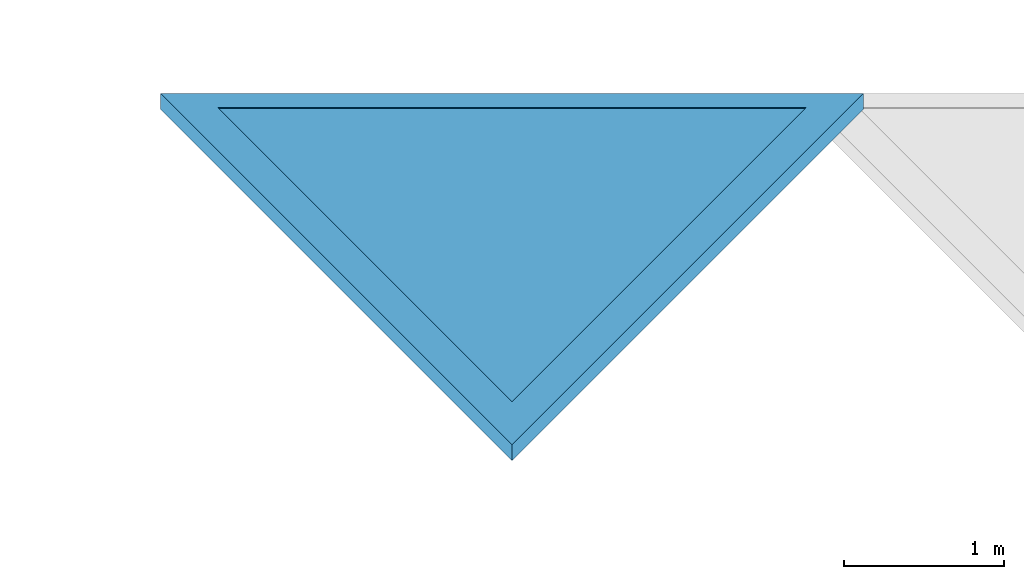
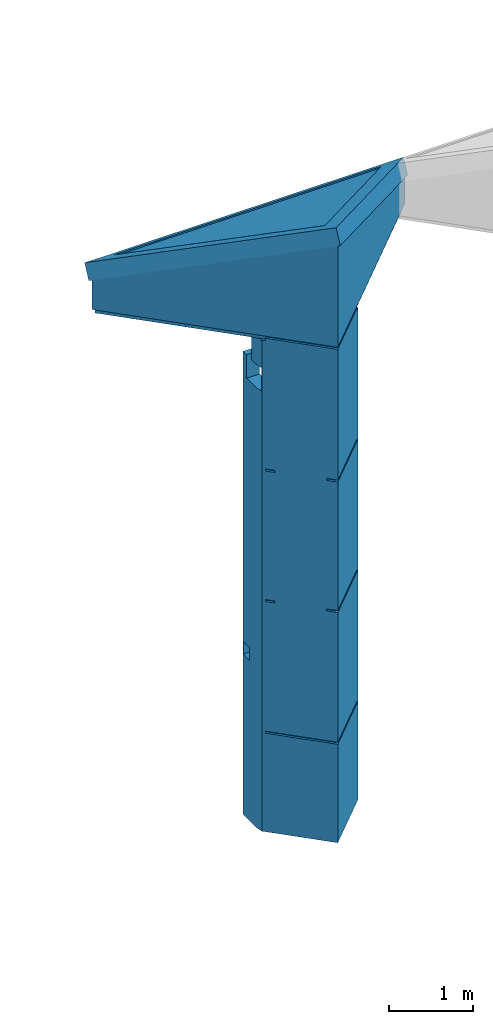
# One storey, part 8 of 13: 1 wall.
"""IFC4 building model written with IfcOpenShell, lengths in metres."""

from ifc_helpers import new_model, entity, si_unit, converted_unit, derived_unit, direction, frame, origin, place, context, subcontext, project, spatial, polygons, material, type_object, element, save


model = new_model("IFC4")

# Units and contexts
model_context = context("Model", 3, precision=1e-05, world=origin(), true_north=direction((6.12303176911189e-17, 1.0)))
body_context = subcontext(model_context, "Body", "Model", "MODEL_VIEW")
ifc_project = project(units=[si_unit("LENGTHUNIT", "METRE"), si_unit("AREAUNIT", "SQUARE_METRE"), si_unit("VOLUMEUNIT", "CUBIC_METRE"), converted_unit("PLANEANGLEUNIT", "DEGREE", entity("IfcRatioMeasure", 0.0174532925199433), si_unit("PLANEANGLEUNIT", "RADIAN"), dimensions=[0, 0, 0, 0, 0, 0, 0]), si_unit("MASSUNIT", "GRAM", prefix="KILO"), derived_unit("MASSDENSITYUNIT", [(si_unit("MASSUNIT", "GRAM", prefix="KILO"), 1), (si_unit("LENGTHUNIT", "METRE"), -3)]), derived_unit("MOMENTOFINERTIAUNIT", [(si_unit("LENGTHUNIT", "METRE"), 4)]), si_unit("TIMEUNIT", "SECOND"), si_unit("FREQUENCYUNIT", "HERTZ"), si_unit("THERMODYNAMICTEMPERATUREUNIT", "DEGREE_CELSIUS"), derived_unit("THERMALTRANSMITTANCEUNIT", [(si_unit("MASSUNIT", "GRAM", prefix="KILO"), 1), (si_unit("THERMODYNAMICTEMPERATUREUNIT", "KELVIN"), -1), (si_unit("TIMEUNIT", "SECOND"), -3)]), derived_unit("VOLUMETRICFLOWRATEUNIT", [(si_unit("LENGTHUNIT", "METRE"), 3), (si_unit("TIMEUNIT", "SECOND"), -1)]), si_unit("ELECTRICCURRENTUNIT", "AMPERE"), si_unit("ELECTRICVOLTAGEUNIT", "VOLT"), si_unit("POWERUNIT", "WATT"), si_unit("FORCEUNIT", "NEWTON", prefix="KILO"), si_unit("ILLUMINANCEUNIT", "LUX"), si_unit("LUMINOUSFLUXUNIT", "LUMEN"), si_unit("LUMINOUSINTENSITYUNIT", "CANDELA"), derived_unit("USERDEFINED", [(si_unit("MASSUNIT", "GRAM", prefix="KILO"), -1), (si_unit("LENGTHUNIT", "METRE"), -2), (si_unit("TIMEUNIT", "SECOND"), 3), (si_unit("LUMINOUSFLUXUNIT", "LUMEN"), 1)]), derived_unit("LINEARVELOCITYUNIT", [(si_unit("LENGTHUNIT", "METRE"), 1), (si_unit("TIMEUNIT", "SECOND"), -1)]), si_unit("PRESSUREUNIT", "PASCAL"), derived_unit("USERDEFINED", [(si_unit("LENGTHUNIT", "METRE"), -2), (si_unit("MASSUNIT", "GRAM", prefix="KILO"), 1), (si_unit("TIMEUNIT", "SECOND"), -2)]), derived_unit("LINEARFORCEUNIT", [(si_unit("MASSUNIT", "GRAM", prefix="KILO"), 1), (si_unit("LENGTHUNIT", "METRE"), 1), (si_unit("TIMEUNIT", "SECOND"), -2), (si_unit("LENGTHUNIT", "METRE"), -1)]), derived_unit("PLANARFORCEUNIT", [(si_unit("MASSUNIT", "GRAM", prefix="KILO"), 1), (si_unit("LENGTHUNIT", "METRE"), 1), (si_unit("TIMEUNIT", "SECOND"), -2), (si_unit("LENGTHUNIT", "METRE"), -2)])], contexts=[model_context])

# Site, building, storey
site_placement = place(None, origin())
site = spatial("IfcSite", under=ifc_project, at=site_placement, Name="Default", CompositionType="ELEMENT")
building_placement = place(site_placement, origin())
building = spatial("IfcBuilding", under=site, at=building_placement, Name="HOTEL CONSULAIRE BOULOGNE SUR MER", CompositionType="ELEMENT")
storey_placement = place(building_placement, frame((0.0, 0.0, -1.40419978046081)))
storey = spatial("IfcBuildingStorey", under=building, at=storey_placement, Name="Demi-niveau", CompositionType="ELEMENT", Elevation=-1.40419978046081)

# Wall
ifc_material = material(Name="alu finifion bleu")
wall_type = type_object("IfcWallType", Name="mur-rideau:mur-rideau", PredefinedType="NOTDEFINED", material=ifc_material)
wall_placement = place(storey_placement, frame((12.81541570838, -30.5788994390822, 1.30218564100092)))
element("IfcWall", 1, at=wall_placement, inside=storey, type_object=wall_type, material=ifc_material, Name="mur-rideau:mur-rideau", ObjectType="mur-rideau:mur-rideau", PredefinedType="NOTDEFINED", context=body_context, shape_type="Tessellation", body=[
    polygons([(1.49106216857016, 0.790695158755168, 0.0600000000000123), (1.50970168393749, 0.68652729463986, 0.0600000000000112), (2.17203500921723, 0.0241939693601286, 0.0600000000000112), (2.83436833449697, 0.686527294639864, 0.0600000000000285), (2.85300784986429, 0.79069515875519, 0.0600000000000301), (2.85300784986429, 0.890832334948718, 0.0600000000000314), (1.49106216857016, 0.890832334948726, 0.0600000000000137), (1.49106216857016, 0.790695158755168, 1.08286712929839e-15), (1.49106216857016, 0.890832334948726, 2.38569164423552e-15), (2.85300784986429, 0.890832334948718, 2.01514804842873e-14), (2.85300784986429, 0.79069515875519, 1.88317361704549e-14), (2.83436833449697, 0.686527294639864, 1.72412750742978e-14), (2.17203500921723, 0.0241939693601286, -3.38395977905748e-17), (1.50970168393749, 0.68652729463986, -3.38395977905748e-17)], [[[7, 1, 2, 3, 4, 5, 6]], [[12, 13, 14, 8, 9, 10, 11]], [[2, 1, 8, 14]], [[3, 2, 14, 13]], [[4, 3, 13, 12]], [[5, 4, 12, 11]], [[6, 5, 11, 10]], [[7, 6, 10, 9]], [[1, 7, 9, 8]]], closed=True),
    polygons([(0.170311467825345, 2.0687264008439, 7.68575566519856), (0.336423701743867, 2.0687264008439, 7.68575566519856), (0.236423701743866, 2.1687264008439, 7.68575566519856), (0.0703114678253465, 2.1687264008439, 7.68575566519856), (0.170311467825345, 2.0687264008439, 7.23875566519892), (0.336423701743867, 2.0687264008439, 7.23875566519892), (0.236423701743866, 2.1687264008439, 7.23875566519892), (0.0703114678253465, 2.1687264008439, 7.23875566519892)], [[[4, 1, 2, 3]], [[2, 1, 5, 6]], [[3, 2, 6, 7]], [[4, 3, 7, 8]], [[1, 4, 8, 5]], [[7, 6, 5, 8]]], closed=True),
    polygons([(3.975768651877, 2.06872640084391, 7.23875566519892), (4.075768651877, 2.16872640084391, 7.23875566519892), (4.28468977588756, 2.16872640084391, 7.23875566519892), (4.18468977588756, 2.06872640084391, 7.23875566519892), (4.18468977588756, 2.06872640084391, 7.68575566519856), (3.975768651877, 2.06872640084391, 7.68575566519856), (4.28468977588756, 2.16872640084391, 7.68575566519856), (4.075768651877, 2.16872640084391, 7.68575566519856)], [[[3, 4, 1, 2]], [[5, 6, 1, 4]], [[7, 5, 4, 3]], [[8, 7, 3, 2]], [[6, 8, 2, 1]], [[8, 6, 5, 7]]], closed=True),
    polygons([(2.15609617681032, 0.24905392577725, 8.67713638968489), (2.07304005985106, 0.165997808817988, 8.67713638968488), (2.17750062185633, 0.0615372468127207, 8.67713638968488), (2.26055673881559, 0.144593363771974, 8.67713638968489), (2.15609617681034, 0.249053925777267, 7.2387556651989), (2.26055673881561, 0.144593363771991, 7.2387556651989), (2.17750062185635, 0.061537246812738, 7.2387556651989), (2.07304005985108, 0.165997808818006, 7.2387556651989)], [[[4, 1, 2, 3]], [[7, 8, 5, 6]], [[2, 1, 5, 8]], [[3, 2, 8, 7]], [[4, 3, 7, 6]], [[1, 4, 6, 5]]], closed=True),
    polygons([(2.17750062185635, 0.0615372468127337, 7.23875566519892), (4.28468977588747, 2.16872640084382, 7.23875566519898), (0.0703114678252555, 2.16872640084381, 7.23875566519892), (0.336423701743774, 2.06872640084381, 7.23875566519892), (3.97576865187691, 2.06872640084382, 7.23875566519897), (2.15609617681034, 0.249053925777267, 7.23875566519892), (2.17750062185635, 0.0615372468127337, 7.13875566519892), (0.0703114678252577, 2.16872640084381, 7.13875566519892), (4.28468977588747, 2.16872640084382, 7.13875566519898), (0.336423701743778, 2.06872640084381, 7.13875566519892), (2.15609617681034, 0.249053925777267, 7.13875566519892), (3.97576865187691, 2.06872640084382, 7.13875566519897)], [[[1, 2, 3], [4, 5, 6]], [[8, 9, 7], [12, 10, 11]], [[2, 1, 7, 9]], [[1, 3, 8, 7]], [[6, 5, 12, 11]], [[4, 6, 11, 10]], [[3, 2, 9, 8]], [[5, 4, 10, 12]]], closed=True),
    polygons([(2.1928416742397, 0.344441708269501, 8.71182457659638), (0.35526622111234, 2.18201716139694, 7.81401991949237), (4.03041712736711, 2.18201716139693, 7.81401991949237), (2.1928416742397, 0.360055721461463, 8.74378244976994), (4.03041712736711, 2.19763117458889, 7.84597779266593), (0.35526622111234, 2.1976311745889, 7.84597779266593)], [[[3, 1, 2]], [[4, 5, 6]], [[5, 4, 1, 3]], [[6, 5, 3, 2]], [[4, 6, 2, 1]]], closed=True),
    polygons([(0.0, 2.29137199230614, 7.81880128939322), (2.19284167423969, 0.0985303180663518, 8.89018231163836), (4.38568334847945, 2.29137199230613, 7.81880128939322), (2.19284167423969, 0.367401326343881, 8.75881701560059), (0.355266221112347, 2.20497677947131, 7.86101235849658), (4.0304171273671, 2.2049767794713, 7.86101235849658), (0.0, 2.19284167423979, 7.61713504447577), (4.38568334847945, 2.19284167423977, 7.61713504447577), (2.19284167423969, 0.0, 8.68851606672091), (2.19284167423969, 0.268871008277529, 8.55715077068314), (4.0304171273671, 2.10644646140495, 7.65934611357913), (0.355266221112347, 2.10644646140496, 7.65934611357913)], [[[1, 2, 3], [6, 4, 5]], [[8, 9, 7], [11, 12, 10]], [[2, 1, 7, 9]], [[3, 2, 9, 8]], [[1, 3, 8, 7]], [[5, 4, 10, 12]], [[6, 5, 12, 11]], [[4, 6, 11, 10]]], closed=True),
    polygons([(2.17203500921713, 0.0670028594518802, 1.43200000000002), (2.78195448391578, 0.676922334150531, 1.432), (2.78195448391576, 0.676922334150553, 0.0450000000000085), (2.1720350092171, 0.0670028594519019, 0.0450000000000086), (2.19343945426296, 0.0455984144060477, 1.43200000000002), (2.80335892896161, 0.655517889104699, 1.432), (2.8033589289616, 0.65551788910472, 0.0450000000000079), (2.19343945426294, 0.0455984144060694, 0.0450000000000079)], [[[3, 4, 1, 2]], [[5, 6, 2, 1]], [[6, 7, 3, 2]], [[7, 8, 4, 3]], [[8, 5, 1, 4]], [[6, 5, 8, 7]]], closed=True),
    polygons([(4.36318303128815, 2.21534199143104, 7.20400000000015), (4.36318303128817, 2.21534199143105, 7.61713504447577), (2.19343945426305, 0.0455984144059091, 8.6772307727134), (2.19343945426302, 0.0455984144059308, 7.20400000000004), (4.34177858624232, 2.23674643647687, 7.20400000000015), (4.34177858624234, 2.23674643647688, 7.61713504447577), (2.17203500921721, 0.0670028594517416, 8.6772307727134), (2.17203500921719, 0.0670028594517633, 7.20400000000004)], [[[2, 3, 4, 1]], [[2, 1, 5, 6]], [[3, 2, 6, 7]], [[4, 3, 7, 8]], [[1, 4, 8, 5]], [[5, 8, 7, 6]]], closed=True),
    polygons([(2.78195448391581, 0.676922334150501, 3.34600000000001), (2.17203500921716, 0.0670028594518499, 3.34600000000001), (2.19343945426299, 0.0455984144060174, 3.34600000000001), (2.80335892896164, 0.655517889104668, 3.34600000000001), (2.78195448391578, 0.676922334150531, 1.46200000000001), (2.80335892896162, 0.655517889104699, 1.46200000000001), (2.17203500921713, 0.0670028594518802, 1.46200000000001), (2.19343945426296, 0.0455984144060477, 1.46200000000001)], [[[3, 4, 1, 2]], [[4, 6, 5, 1]], [[6, 8, 7, 5]], [[8, 3, 2, 7]], [[5, 7, 2, 1]], [[4, 3, 8, 6]]], closed=True),
    polygons([(2.78195448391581, 0.676922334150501, 3.37600000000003), (2.78195448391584, 0.676922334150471, 5.24404165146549), (2.80335892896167, 0.655517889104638, 5.24404165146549), (2.80335892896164, 0.655517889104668, 3.37600000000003), (2.17203500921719, 0.0670028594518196, 5.24404165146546), (2.19343945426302, 0.0455984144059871, 5.24404165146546), (2.17203500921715, 0.0670028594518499, 3.37600000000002), (2.19343945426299, 0.0455984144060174, 3.37600000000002)], [[[3, 4, 1, 2]], [[6, 3, 2, 5]], [[8, 6, 5, 7]], [[4, 8, 7, 1]], [[1, 7, 5, 2]], [[3, 6, 8, 4]]], closed=True),
    polygons([(2.78195448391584, 0.676922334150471, 5.2740416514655), (2.78195448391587, 0.676922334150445, 7.17400000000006), (2.80335892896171, 0.655517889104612, 7.17400000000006), (2.80335892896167, 0.655517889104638, 5.2740416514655), (2.17203500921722, 0.0670028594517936, 7.17400000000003), (2.19343945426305, 0.0455984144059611, 7.17400000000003), (2.17203500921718, 0.0670028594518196, 5.27404165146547), (2.19343945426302, 0.0455984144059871, 5.27404165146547)], [[[3, 4, 1, 2]], [[6, 3, 2, 5]], [[8, 6, 5, 7]], [[4, 8, 7, 1]], [[1, 7, 5, 2]], [[3, 6, 8, 4]]], closed=True),
    polygons([(2.14972786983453, 0.242685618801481, 5.28904165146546), (2.14972786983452, 0.242685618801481, 5.22904165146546), (2.25418843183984, 0.138225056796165, 5.22904165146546), (2.25418843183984, 0.138225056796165, 5.28904165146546), (2.59994112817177, 0.692898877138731, 5.28904165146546), (2.59994112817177, 0.692898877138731, 5.22904165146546), (2.70440169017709, 0.588438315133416, 5.22904165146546), (2.70440169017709, 0.588438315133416, 5.28904165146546)], [[[4, 1, 2, 3]], [[2, 1, 5, 6]], [[3, 2, 6, 7]], [[4, 3, 7, 8]], [[1, 4, 8, 5]], [[7, 6, 5, 8]]], closed=True),
    polygons([(2.62134557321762, 0.671494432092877, 0.0600000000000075), (2.69893607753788, 0.593903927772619, 0.0600000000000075), (2.69893607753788, 0.593903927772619, 7.58006990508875e-15), (2.62134557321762, 0.671494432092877, 7.58006990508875e-15), (2.17113231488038, 0.221281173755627, 7.58006990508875e-15), (2.17113231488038, 0.221281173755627, 0.0600000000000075), (2.24872281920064, 0.143690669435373, 7.58006990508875e-15), (2.24872281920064, 0.143690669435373, 0.0600000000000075)], [[[3, 4, 1, 2]], [[5, 6, 1, 4]], [[7, 5, 4, 3]], [[8, 7, 3, 2]], [[6, 8, 2, 1]], [[8, 6, 5, 7]]], closed=True),
    polygons([(2.17113231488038, 0.221281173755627, 1.41700000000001), (2.17113231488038, 0.221281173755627, 1.47700000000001), (2.62134557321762, 0.671494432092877, 1.47700000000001), (2.62134557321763, 0.671494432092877, 1.41700000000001), (2.24872281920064, 0.143690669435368, 1.41700000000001), (2.69893607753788, 0.593903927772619, 1.41700000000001), (2.24872281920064, 0.143690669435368, 1.47700000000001), (2.69893607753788, 0.593903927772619, 1.47700000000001)], [[[1, 2, 3, 4]], [[5, 1, 4, 6]], [[7, 5, 6, 8]], [[2, 7, 8, 3]], [[7, 2, 1, 5]], [[6, 4, 3, 8]]], closed=True),
    polygons([(2.14972786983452, 0.242685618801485, 3.33100000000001), (2.14972786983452, 0.242685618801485, 3.39100000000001), (2.59994112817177, 0.692898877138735, 3.39100000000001), (2.59994112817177, 0.692898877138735, 3.33100000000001), (2.25418843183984, 0.13822505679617, 3.33100000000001), (2.70440169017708, 0.58843831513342, 3.33100000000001), (2.25418843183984, 0.13822505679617, 3.39100000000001), (2.70440169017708, 0.58843831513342, 3.39100000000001)], [[[1, 2, 3, 4]], [[5, 1, 4, 6]], [[7, 5, 6, 8]], [[2, 7, 8, 3]], [[7, 2, 1, 5]], [[6, 4, 3, 8]]], closed=True),
    polygons([(0.0489070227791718, 2.19013084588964, 7.20400000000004), (0.0489070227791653, 2.19013084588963, 7.62891731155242), (2.1943421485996, 0.0446957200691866, 8.67713638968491), (2.19434214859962, 0.0446957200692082, 7.20400000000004), (2.17293770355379, 0.0232912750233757, 7.20400000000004), (0.0275025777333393, 2.16872640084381, 7.20400000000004), (2.17293770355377, 0.0232912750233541, 8.67713638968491), (0.0275025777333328, 2.1687264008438, 7.62891731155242)], [[[1, 2, 3, 4]], [[5, 6, 1, 4]], [[7, 5, 4, 3]], [[8, 7, 3, 2]], [[6, 8, 2, 1]], [[5, 7, 8, 6]]], closed=True),
    polygons([(2.17293770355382, 0.0232912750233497, 7.17400000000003), (1.54071108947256, 0.655517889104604, 7.17400000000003), (1.54071108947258, 0.655517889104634, 5.27404165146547), (2.17293770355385, 0.0232912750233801, 5.27404165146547), (2.19434214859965, 0.0446957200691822, 7.17400000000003), (1.56211553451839, 0.676922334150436, 7.17400000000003), (1.56211553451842, 0.676922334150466, 5.27404165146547), (2.19434214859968, 0.0446957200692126, 5.27404165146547)], [[[4, 1, 2, 3]], [[2, 1, 5, 6]], [[3, 2, 6, 7]], [[4, 3, 7, 8]], [[1, 4, 8, 5]], [[7, 6, 5, 8]]], closed=True),
    polygons([(2.19434214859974, 0.0446957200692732, 1.43200000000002), (1.56211553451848, 0.676922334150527, 1.432), (1.54071108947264, 0.655517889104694, 1.432), (2.1729377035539, 0.0232912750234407, 1.43200000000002), (1.5621155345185, 0.676922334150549, 0.0450000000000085), (1.54071108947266, 0.655517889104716, 0.0450000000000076), (2.19434214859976, 0.0446957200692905, 0.0450000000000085), (2.17293770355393, 0.023291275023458, 0.0450000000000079)], [[[3, 4, 1, 2]], [[6, 3, 2, 5]], [[8, 6, 5, 7]], [[4, 8, 7, 1]], [[5, 2, 1, 7]], [[8, 4, 3, 6]]], closed=True),
    polygons([(2.19434214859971, 0.0446957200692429, 3.34600000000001), (1.56211553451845, 0.676922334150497, 3.34600000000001), (1.54071108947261, 0.655517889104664, 3.34600000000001), (2.17293770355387, 0.0232912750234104, 3.34600000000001), (1.56211553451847, 0.676922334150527, 1.46200000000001), (1.54071108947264, 0.655517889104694, 1.46200000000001), (2.19434214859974, 0.0446957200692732, 1.46200000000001), (2.1729377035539, 0.0232912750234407, 1.46200000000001)], [[[3, 4, 1, 2]], [[6, 3, 2, 5]], [[8, 6, 5, 7]], [[4, 8, 7, 1]], [[5, 2, 1, 7]], [[8, 4, 3, 6]]], closed=True),
    polygons([(2.19434214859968, 0.0446957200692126, 5.24404165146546), (1.56211553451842, 0.676922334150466, 5.24404165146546), (1.54071108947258, 0.655517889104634, 5.24404165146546), (2.17293770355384, 0.0232912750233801, 5.24404165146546), (1.56211553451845, 0.676922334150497, 3.37600000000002), (1.54071108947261, 0.655517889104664, 3.37600000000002), (2.19434214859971, 0.0446957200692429, 3.37600000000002), (2.17293770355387, 0.0232912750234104, 3.37600000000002)], [[[3, 4, 1, 2]], [[6, 3, 2, 5]], [[8, 6, 5, 7]], [[4, 8, 7, 1]], [[5, 2, 1, 7]], [[8, 4, 3, 6]]], closed=True),
    polygons([(2.07394275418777, 0.122286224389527, 5.28904165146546), (2.07394275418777, 0.122286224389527, 5.22904165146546), (2.17840331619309, 0.226746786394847, 5.22904165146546), (2.17840331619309, 0.226746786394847, 5.28904165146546), (1.62372949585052, 0.572499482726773, 5.28904165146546), (1.62372949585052, 0.572499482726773, 5.22904165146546), (1.72819005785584, 0.676960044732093, 5.22904165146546), (1.72819005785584, 0.676960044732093, 5.28904165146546)], [[[4, 1, 2, 3]], [[2, 1, 5, 6]], [[3, 2, 6, 7]], [[4, 3, 7, 8]], [[1, 4, 8, 5]], [[7, 6, 5, 8]]], closed=True),
    polygons([(1.64513394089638, 0.593903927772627, 0.0600000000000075), (1.72272444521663, 0.671494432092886, 0.0600000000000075), (1.72272444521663, 0.671494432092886, 7.58006990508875e-15), (1.64513394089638, 0.593903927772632, 7.58006990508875e-15), (2.09534719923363, 0.143690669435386, 7.58006990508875e-15), (2.09534719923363, 0.143690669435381, 0.0600000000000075), (2.17293770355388, 0.22128117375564, 7.58006990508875e-15), (2.17293770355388, 0.22128117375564, 0.0600000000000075)], [[[3, 4, 1, 2]], [[5, 6, 1, 4]], [[7, 5, 4, 3]], [[8, 7, 3, 2]], [[6, 8, 2, 1]], [[8, 6, 5, 7]]], closed=True),
    polygons([(2.09534719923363, 0.143690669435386, 1.41700000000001), (2.09534719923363, 0.143690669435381, 1.47700000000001), (1.64513394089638, 0.593903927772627, 1.47700000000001), (1.64513394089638, 0.593903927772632, 1.41700000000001), (2.17293770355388, 0.22128117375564, 1.41700000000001), (1.72272444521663, 0.671494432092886, 1.41700000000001), (2.17293770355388, 0.22128117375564, 1.47700000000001), (1.72272444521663, 0.671494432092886, 1.47700000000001)], [[[1, 2, 3, 4]], [[5, 1, 4, 6]], [[7, 5, 6, 8]], [[2, 7, 8, 3]], [[7, 2, 1, 5]], [[6, 4, 3, 8]]], closed=True),
    polygons([(2.07394275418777, 0.122286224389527, 3.33100000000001), (2.07394275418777, 0.122286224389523, 3.39100000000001), (1.62372949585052, 0.572499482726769, 3.39100000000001), (1.62372949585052, 0.572499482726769, 3.33100000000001), (2.17840331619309, 0.226746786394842, 3.33100000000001), (1.72819005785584, 0.676960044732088, 3.33100000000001), (2.17840331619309, 0.226746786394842, 3.39100000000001), (1.72819005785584, 0.676960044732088, 3.39100000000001)], [[[1, 2, 3, 4]], [[5, 1, 4, 6]], [[7, 5, 6, 8]], [[2, 7, 8, 3]], [[7, 2, 1, 5]], [[6, 4, 3, 8]]], closed=True),
    polygons([(1.67106216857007, 1.09783233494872, 7.13875566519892), (1.49106216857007, 1.09783233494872, 7.13875566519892), (1.49106216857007, 1.0540968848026, 7.13875566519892), (1.67106216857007, 1.0540968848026, 7.13875566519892), (1.49106216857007, 1.09783233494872, 7.06375566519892), (1.49106216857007, 1.0540968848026, 7.06375566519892), (1.67106216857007, 1.09783233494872, 7.06375566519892), (1.67106216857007, 1.0540968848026, 7.06375566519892)], [[[1, 2, 3, 4]], [[3, 2, 5, 6]], [[1, 4, 8, 7]], [[2, 1, 7, 5]], [[8, 6, 5, 7]], [[6, 8, 4, 3]]], closed=True),
    polygons([(2.24872281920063, 0.143690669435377, 7.58006990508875e-15), (2.17203500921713, 0.0670028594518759, 7.58006990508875e-15), (2.09534719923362, 0.143690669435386, 7.58006990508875e-15), (2.17203500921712, 0.220378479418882, 7.58006990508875e-15), (2.17203500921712, 0.220378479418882, 7.13875566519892), (2.24872281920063, 0.143690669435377, 7.13875566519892), (2.09534719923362, 0.143690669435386, 7.13875566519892), (2.17203500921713, 0.0670028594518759, 7.13875566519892)], [[[1, 2, 3, 4]], [[5, 6, 1, 4]], [[7, 5, 4, 3]], [[8, 7, 3, 2]], [[6, 8, 2, 1]], [[5, 7, 8, 6]]], closed=True),
    polygons([(1.50970168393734, 0.686527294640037, 7.13875566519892), (1.49106216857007, 0.790695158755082, 7.13875566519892), (1.49106216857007, 0.790695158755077, 6.73375566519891), (1.50821560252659, 0.69483233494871, 6.73375566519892), (1.50821560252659, 0.694832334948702, 6.39375566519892), (1.49106216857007, 0.790695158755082, 6.39375566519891), (1.49106216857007, 0.790695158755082, 7.58006990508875e-15), (1.50970168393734, 0.686527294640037, 7.58006990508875e-15), (1.67106216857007, 0.891832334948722, 7.13875566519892), (1.7014710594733, 0.721890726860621, 7.13875566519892), (1.7014710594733, 0.721890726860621, 6.73375566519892), (1.67106216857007, 0.891832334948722, 6.73375566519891), (1.64513394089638, 0.593903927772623, 7.13875566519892), (1.56211553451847, 0.676922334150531, 7.13875566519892), (1.56211553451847, 0.676922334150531, 7.58006990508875e-15), (1.64513394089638, 0.593903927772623, 7.58006990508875e-15), (1.73729589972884, 0.686065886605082, 7.13875566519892), (1.73729589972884, 0.686065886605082, 7.58006990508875e-15), (1.7014710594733, 0.721890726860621, 7.58006990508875e-15), (1.7014710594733, 0.721890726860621, 6.39375566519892), (1.72852945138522, 0.694832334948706, 6.39375566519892), (1.72852945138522, 0.694832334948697, 6.73375566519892), (1.54071108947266, 0.655517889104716, 7.13875566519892), (1.54071108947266, 0.655517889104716, 7.58006990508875e-15), (1.49106216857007, 1.09783233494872, 7.58006990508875e-15), (1.67106216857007, 1.09783233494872, 7.58006990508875e-15), (1.67106216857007, 0.920832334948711, 7.58006990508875e-15), (1.67106216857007, 0.891832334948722, 7.58006990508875e-15), (1.67124110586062, 0.890832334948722, 7.58006990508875e-15), (1.49106216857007, 0.890832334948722, 7.58006990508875e-15), (1.49106216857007, 0.920832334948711, 7.58006990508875e-15), (1.67106216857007, 0.891832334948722, 0.406605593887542), (1.67106216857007, 0.891832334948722, 5.32857664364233), (1.67106216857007, 0.891832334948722, 6.39375566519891), (1.67768284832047, 0.854832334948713, 6.39375566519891), (1.67106216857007, 1.0148323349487, 6.39375566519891), (1.49106216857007, 1.01483233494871, 6.39375566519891), (1.49106216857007, 0.854832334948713, 6.39375566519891), (1.67106216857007, 1.0148323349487, 6.73375566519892), (1.49106216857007, 1.01483233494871, 6.73375566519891), (1.49106216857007, 0.904096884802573, 6.73375566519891), (1.67106216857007, 0.904096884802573, 6.73375566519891), (1.49106216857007, 0.94383233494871, 2.51354111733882), (1.67106216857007, 0.94383233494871, 2.51354111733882), (1.67106216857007, 0.94383233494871, 2.33354111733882), (1.49106216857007, 0.94383233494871, 2.33354111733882), (1.67106216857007, 1.09383233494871, 2.33354111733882), (1.49106216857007, 1.09383233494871, 2.33354111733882), (1.67106216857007, 1.09383233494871, 2.51354111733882), (1.49106216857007, 1.09383233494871, 2.51354111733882), (1.67106216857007, 1.09783233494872, 6.73375566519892), (1.49106216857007, 1.09783233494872, 6.73375566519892), (1.49106216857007, 1.0540968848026, 6.73375566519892), (1.67106216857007, 1.0540968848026, 6.73375566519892), (1.49106216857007, 0.904096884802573, 7.13875566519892), (1.67106216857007, 0.904096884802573, 7.13875566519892), (1.49106216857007, 1.09783233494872, 5.32857664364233), (1.49106216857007, 1.09783233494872, 0.406605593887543), (1.49106216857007, 1.09783233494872, 0.10201413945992), (1.67106216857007, 1.09783233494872, 0.10201413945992), (1.67106216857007, 1.09783233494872, 0.406605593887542), (1.67106216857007, 1.09783233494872, 5.32857664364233)], [[[2, 3, 4, 5, 6, 7, 8, 1]], [[9, 10, 11, 12]], [[35, 20, 19, 29, 28, 32, 33, 34]], [[13, 14, 15, 16]], [[23, 1, 8, 24]], [[17, 13, 16, 18]], [[14, 23, 24, 15]], [[17, 18, 19, 20, 21, 22, 11, 10]], [[15, 24, 8, 7, 30, 31, 25, 26, 27, 28, 29, 19, 18, 16]], [[4, 3, 41, 42, 12, 11, 22]], [[43, 50, 49, 44]], [[4, 22, 21, 5]], [[46, 43, 44, 45]], [[42, 41, 55, 56]], [[51, 62, 61, 60, 26, 25, 59, 58, 57, 52]], [[5, 21, 20, 35, 34, 36, 37, 38, 6]], [[48, 46, 45, 47]], [[53, 40, 39, 54, 51, 52]], [[55, 2, 1, 23, 14, 13, 17, 10, 9, 56]], [[40, 37, 36, 39]], [[48, 47, 49, 50]], [[37, 40, 53, 52, 57, 58, 59, 25, 31, 30, 7, 6, 38], [43, 46, 48, 50]], [[2, 55, 41, 3]], [[36, 34, 33, 32, 28, 27, 26, 60, 61, 62, 51, 54, 39], [44, 49, 47, 45]], [[56, 9, 12, 42]]], closed=True),
    polygons([(2.67300784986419, 1.09783233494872, 7.13875566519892), (2.85300784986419, 1.09783233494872, 7.13875566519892), (2.85300784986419, 1.09783233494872, 7.06375566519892), (2.67300784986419, 1.09783233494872, 7.06375566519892), (2.67300784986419, 1.0540968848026, 7.06375566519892), (2.67300784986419, 1.0540968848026, 7.13875566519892), (2.85300784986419, 1.0540968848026, 7.13875566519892), (2.85300784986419, 1.0540968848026, 7.06375566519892)], [[[1, 2, 3, 4]], [[6, 1, 4, 5]], [[2, 7, 8, 3]], [[2, 1, 6, 7]], [[8, 5, 4, 3]], [[5, 8, 7, 6]]], closed=True),
    polygons([(2.64259895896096, 0.721890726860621, 7.13875566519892), (2.67300784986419, 0.891832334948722, 7.13875566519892), (2.67300784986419, 0.891832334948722, 6.73375566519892), (2.64259895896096, 0.721890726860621, 6.73375566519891), (2.60677411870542, 0.686065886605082, 7.13875566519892), (2.61554056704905, 0.69483233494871, 6.73375566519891), (2.61554056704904, 0.694832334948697, 6.39375566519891), (2.64259895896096, 0.721890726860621, 6.39375566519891), (2.64259895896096, 0.721890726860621, 7.58006990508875e-15), (2.60677411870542, 0.686065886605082, 7.58006990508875e-15), (2.69893607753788, 0.593903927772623, 7.13875566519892), (2.69893607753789, 0.593903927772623, 7.58006990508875e-15), (2.78195448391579, 0.676922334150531, 7.13875566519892), (2.78195448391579, 0.676922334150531, 7.58006990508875e-15), (2.8033589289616, 0.655517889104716, 7.13875566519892), (2.8033589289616, 0.655517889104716, 7.58006990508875e-15), (2.83436833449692, 0.686527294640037, 7.13875566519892), (2.83436833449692, 0.686527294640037, 7.58006990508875e-15), (2.85300784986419, 0.790695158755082, 7.13875566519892), (2.85300784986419, 0.790695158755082, 7.58006990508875e-15), (2.85300784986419, 0.790695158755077, 6.39375566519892), (2.83585441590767, 0.694832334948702, 6.39375566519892), (2.83585441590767, 0.694832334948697, 6.73375566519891), (2.85300784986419, 0.790695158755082, 6.73375566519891), (2.85300784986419, 1.09783233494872, 7.58006990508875e-15), (2.85300784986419, 0.920832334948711, 7.58006990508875e-15), (2.85300784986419, 0.890832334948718, 7.58006990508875e-15), (2.67282891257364, 0.890832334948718, 7.58006990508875e-15), (2.67300784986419, 0.891832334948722, 7.58006990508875e-15), (2.67300784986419, 0.920832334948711, 7.58006990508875e-15), (2.67300784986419, 1.09783233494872, 7.58006990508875e-15), (2.85300784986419, 0.854832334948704, 6.39375566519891), (2.85300784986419, 1.0148323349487, 6.39375566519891), (2.67300784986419, 1.0148323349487, 6.39375566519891), (2.67300784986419, 0.891832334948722, 6.39375566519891), (2.66638717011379, 0.854832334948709, 6.39375566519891), (2.85300784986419, 1.0148323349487, 6.73375566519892), (2.67300784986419, 1.0148323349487, 6.73375566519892), (2.67300784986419, 0.904096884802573, 6.73375566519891), (2.85300784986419, 0.904096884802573, 6.73375566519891), (2.67300784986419, 0.891832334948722, 5.32857664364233), (2.67300784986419, 0.891832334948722, 0.406605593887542), (2.67300784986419, 0.94383233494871, 2.51354111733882), (2.85300784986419, 0.94383233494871, 2.51354111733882), (2.85300784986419, 0.94383233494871, 2.33354111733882), (2.67300784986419, 0.94383233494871, 2.33354111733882), (2.85300784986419, 1.09383233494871, 2.33354111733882), (2.67300784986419, 1.09383233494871, 2.33354111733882), (2.85300784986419, 1.09383233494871, 2.51354111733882), (2.67300784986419, 1.09383233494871, 2.51354111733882), (2.67300784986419, 1.09783233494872, 0.10201413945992), (2.67300784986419, 1.09783233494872, 0.406605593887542), (2.67300784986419, 1.09783233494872, 5.32857664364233), (2.67300784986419, 1.09783233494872, 6.73375566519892), (2.85300784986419, 1.09783233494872, 6.73375566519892), (2.85300784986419, 1.09783233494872, 5.32857664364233), (2.85300784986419, 1.09783233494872, 0.406605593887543), (2.85300784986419, 1.09783233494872, 0.10201413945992), (2.67300784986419, 1.0540968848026, 6.73375566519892), (2.85300784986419, 1.0540968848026, 6.73375566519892), (2.67300784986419, 0.904096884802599, 7.13875566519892), (2.85300784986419, 0.904096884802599, 7.13875566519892)], [[[1, 2, 3, 4]], [[35, 41, 42, 29, 28, 9, 8, 36]], [[1, 4, 6, 7, 8, 9, 10, 5]], [[11, 5, 10, 12]], [[15, 13, 14, 16]], [[13, 11, 12, 14]], [[17, 15, 16, 18]], [[17, 18, 20, 21, 22, 23, 24, 19]], [[12, 10, 9, 28, 29, 30, 31, 25, 26, 27, 20, 18, 16, 14]], [[23, 6, 4, 3, 39, 40, 24]], [[50, 49, 44, 43]], [[7, 6, 23, 22]], [[46, 43, 44, 45]], [[55, 56, 57, 58, 25, 31, 51, 52, 53, 54]], [[62, 40, 39, 61]], [[36, 8, 7, 22, 21, 32, 33, 34, 35]], [[46, 45, 47, 48]], [[59, 38, 37, 60, 55, 54]], [[62, 61, 2, 1, 5, 11, 13, 15, 17, 19]], [[38, 34, 33, 37]], [[48, 47, 49, 50]], [[34, 38, 59, 54, 53, 52, 51, 31, 30, 29, 42, 41, 35], [43, 46, 48, 50]], [[2, 61, 39, 3]], [[56, 55, 60, 37, 33, 32, 21, 20, 27, 26, 25, 58, 57], [44, 49, 47, 45]], [[62, 19, 24, 40]]], closed=True),
])

save(model, "model.ifc")
